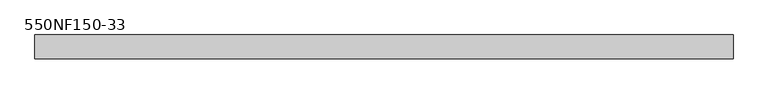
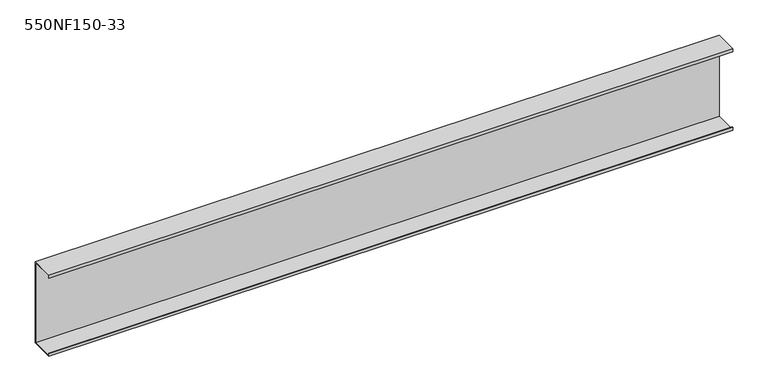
"""IFC4 building model written with IfcOpenShell, lengths in millimetres: beam geometry, BIMSF-SSMA-S : 550NF150-33."""

from ifc_helpers import new_model, si_unit, frame, origin, place, context, project, spatial, polyline, outline, extrude, source, transform, mapped, element, save


def beam_550nf150_33_a82aadf9(model_context):
    return source(origin(), model_context, "Body", "SweptSolid", [
        extrude(outline(polyline([(19.05, 69.85), (19.05, -69.85), (-19.05, -69.85), (-19.05, -65.0748), (-18.1676842, -65.0748), (-18.1676842, -68.9676842), (18.1676842, -68.9676842), (18.1676842, 68.9676842), (-18.1676842, 68.9676842), (-18.1676842, 65.0748), (-19.05, 65.0748), (-19.05, 69.85), (19.05, 69.85)])), frame((-556.41875, 0.0, 0.0), z_axis=(1.0, 0.0, 0.0), x_axis=(0.0, 1.0, 0.0)), (0.0, 0.0, 1.0), 1112.8375),
    ])


if __name__ == "__main__":
    model = new_model("IFC4")
    model_context = context("Model", 3, world=origin())
    ifc_project = project(units=[si_unit("LENGTHUNIT", "METRE", prefix="MILLI")], contexts=[model_context])
    site = spatial("IfcSite", under=ifc_project)
    building = spatial("IfcBuilding", under=site)
    placement = place(None, origin())
    beam_550nf150_33_shape = beam_550nf150_33_a82aadf9(model_context)
    element("IfcBeam", 1, ObjectType="BIMSF-SSMA-S : 550NF150-33", at=placement, inside=building, context=model_context, shape_type="MappedRepresentation", body=[
        mapped(beam_550nf150_33_shape, transform((0.0, 0.0, 0.0), x_axis=(1.0, 0.0, 0.0), y_axis=(0.0, 1.0, 0.0), z_axis=(0.0, 0.0, 1.0))),
    ])
    save(model, "model.ifc")
